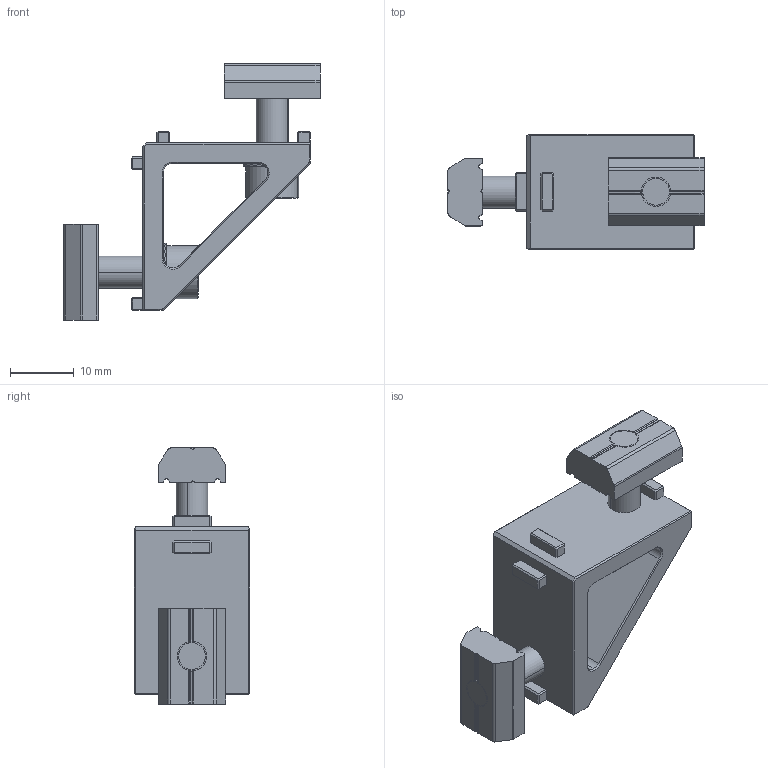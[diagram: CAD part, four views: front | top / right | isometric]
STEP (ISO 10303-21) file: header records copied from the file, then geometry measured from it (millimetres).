
FILE_DESCRIPTION (( 'STEP AP203' ), '1' );
FILE_NAME ('SMBD3-2525T（新款）.STEP', '2023-10-12T06:44:25', ( '微软用户' ), ( '微软中国' ), 'SwSTEP 2.0', 'SolidWorks 2019', '' );
FILE_SCHEMA (( 'CONFIG_CONTROL_DESIGN' ));
Length unit declared in the file: millimetre
Products named in the file (5): PTN-M5; PTS-M5; SMBD3-2525T（新款）; SMBD3-2525（新款）; PTC-M5L16
Assembly tree (7 placements, depth 2):
  SMBD3-2525T（新款）
    SMBD3-2525（新款）
    PTC-M5L16  x2
    PTN-M5  x2
    PTS-M5  x2
Bounding box: 40.05 x 18 x 40.05 mm (x, y, z)
Volume: 6359.8 mm3; surface area: 5731.2 mm2
Topology: 7 solids, 7 shells, 601 faces, 1688 edges, 1097 vertices
Faces by surface type: plane 491, cylinder 83, cone 23, bspline 4
Entity records: 14217 total; most frequent: CARTESIAN_POINT 4162, ORIENTED_EDGE 2014, DIRECTION 1964, EDGE_CURVE 1007, LINE 706, VECTOR 706, VERTEX_POINT 645, AXIS2_PLACEMENT_3D 629
